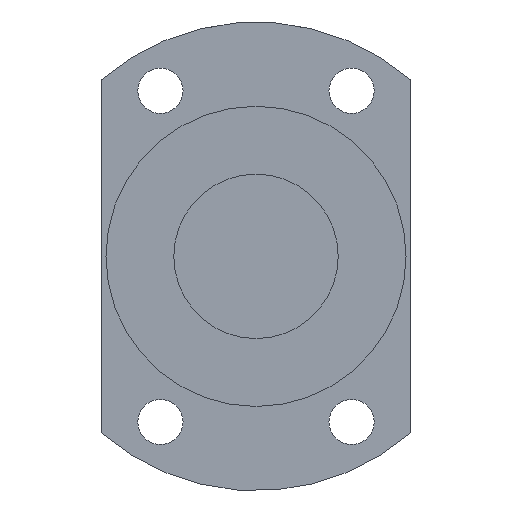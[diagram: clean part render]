
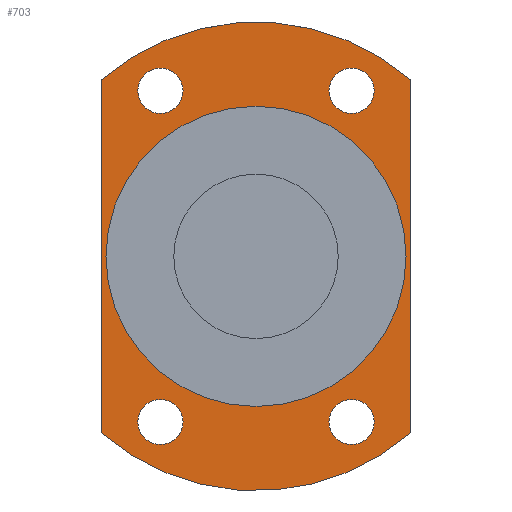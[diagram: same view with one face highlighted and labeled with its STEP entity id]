
A CAD part, left-side view. The second image highlights one B-rep face of the part: STEP entity #703.
In plain terms, the highlighted planar face has unit normal (-1, 0, 0).
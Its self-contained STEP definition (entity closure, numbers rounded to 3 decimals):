
#396=CARTESIAN_POINT('',(19.5,-23.25,-34.77));
#397=VERTEX_POINT('',#396);
#398=CARTESIAN_POINT('',(19.5,-23.25,-40.27));
#399=DIRECTION('',(1.0,0.0,0.0));
#400=DIRECTION('',(0.0,0.0,1.0));
#401=AXIS2_PLACEMENT_3D('',#398,#399,#400);
#402=CIRCLE('',#401,5.5);
#403=EDGE_CURVE('',#397,#397,#402,.T.);
#445=CARTESIAN_POINT('',(19.5,23.25,-34.77));
#446=VERTEX_POINT('',#445);
#447=CARTESIAN_POINT('',(19.5,23.25,-40.27));
#448=DIRECTION('',(1.0,0.0,0.0));
#449=DIRECTION('',(0.0,0.0,1.0));
#450=AXIS2_PLACEMENT_3D('',#447,#448,#449);
#451=CIRCLE('',#450,5.5);
#452=EDGE_CURVE('',#446,#446,#451,.T.);
#494=CARTESIAN_POINT('',(19.5,23.25,45.77));
#495=VERTEX_POINT('',#494);
#496=CARTESIAN_POINT('',(19.5,23.25,40.27));
#497=DIRECTION('',(1.0,0.0,0.0));
#498=DIRECTION('',(0.0,0.0,1.0));
#499=AXIS2_PLACEMENT_3D('',#496,#497,#498);
#500=CIRCLE('',#499,5.5);
#501=EDGE_CURVE('',#495,#495,#500,.T.);
#543=CARTESIAN_POINT('',(19.5,-23.25,45.77));
#544=VERTEX_POINT('',#543);
#545=CARTESIAN_POINT('',(19.5,-23.25,40.27));
#546=DIRECTION('',(1.0,0.0,0.0));
#547=DIRECTION('',(0.0,0.0,1.0));
#548=AXIS2_PLACEMENT_3D('',#545,#546,#547);
#549=CIRCLE('',#548,5.5);
#550=EDGE_CURVE('',#544,#544,#549,.T.);
#570=CARTESIAN_POINT('',(19.5,-37.5,42.927));
#571=VERTEX_POINT('',#570);
#578=CARTESIAN_POINT('',(19.5,-37.5,-42.927));
#579=VERTEX_POINT('',#578);
#580=CARTESIAN_POINT('',(19.5,-37.5,-42.927));
#581=DIRECTION('',(0.0,0.0,1.0));
#582=VECTOR('',#581,85.855);
#583=LINE('',#580,#582);
#584=EDGE_CURVE('',#579,#571,#583,.T.);
#610=CARTESIAN_POINT('',(19.5,37.5,-42.927));
#611=VERTEX_POINT('',#610);
#618=CARTESIAN_POINT('',(19.5,37.5,42.927));
#619=VERTEX_POINT('',#618);
#620=CARTESIAN_POINT('',(19.5,37.5,42.927));
#621=DIRECTION('',(0.0,0.0,-1.0));
#622=VECTOR('',#621,85.855);
#623=LINE('',#620,#622);
#624=EDGE_CURVE('',#619,#611,#623,.T.);
#649=CARTESIAN_POINT('',(19.5,0.0,0.));
#650=DIRECTION('',(-1.0,0.0,0.0));
#651=DIRECTION('',(0.0,0.0,1.0));
#652=AXIS2_PLACEMENT_3D('',#649,#650,#651);
#653=CIRCLE('',#652,57.);
#654=EDGE_CURVE('',#571,#619,#653,.T.);
#663=CARTESIAN_POINT('',(19.5,0.0,46.75));
#664=DIRECTION('',(-1.0,0.0,0.0));
#665=DIRECTION('',(0.0,0.0,1.0));
#666=AXIS2_PLACEMENT_3D('',#663,#664,#665);
#667=PLANE('',#666);
#668=ORIENTED_EDGE('',*,*,#584,.T.);
#669=ORIENTED_EDGE('',*,*,#654,.T.);
#670=ORIENTED_EDGE('',*,*,#624,.T.);
#671=CARTESIAN_POINT('',(19.5,0.0,0.));
#672=DIRECTION('',(-1.0,0.0,0.0));
#673=DIRECTION('',(0.0,0.0,1.0));
#674=AXIS2_PLACEMENT_3D('',#671,#672,#673);
#675=CIRCLE('',#674,57.);
#676=EDGE_CURVE('',#611,#579,#675,.T.);
#677=ORIENTED_EDGE('',*,*,#676,.T.);
#678=EDGE_LOOP('',(#668,#669,#670,#677));
#679=FACE_OUTER_BOUND('',#678,.T.);
#680=ORIENTED_EDGE('',*,*,#403,.T.);
#681=EDGE_LOOP('',(#680));
#682=FACE_BOUND('',#681,.T.);
#683=ORIENTED_EDGE('',*,*,#452,.T.);
#684=EDGE_LOOP('',(#683));
#685=FACE_BOUND('',#684,.T.);
#686=ORIENTED_EDGE('',*,*,#501,.T.);
#687=EDGE_LOOP('',(#686));
#688=FACE_BOUND('',#687,.T.);
#689=ORIENTED_EDGE('',*,*,#550,.T.);
#690=EDGE_LOOP('',(#689));
#691=FACE_BOUND('',#690,.T.);
#692=CARTESIAN_POINT('',(19.5,0.0,36.5));
#693=VERTEX_POINT('',#692);
#694=CARTESIAN_POINT('',(19.5,0.0,0.));
#695=DIRECTION('',(-1.0,0.0,0.0));
#696=DIRECTION('',(0.0,0.0,1.0));
#697=AXIS2_PLACEMENT_3D('',#694,#695,#696);
#698=CIRCLE('',#697,36.5);
#699=EDGE_CURVE('',#693,#693,#698,.T.);
#700=ORIENTED_EDGE('',*,*,#699,.F.);
#701=EDGE_LOOP('',(#700));
#702=FACE_BOUND('',#701,.T.);
#703=ADVANCED_FACE('',(#679,#682,#685,#688,#691,#702),#667,.T.);
